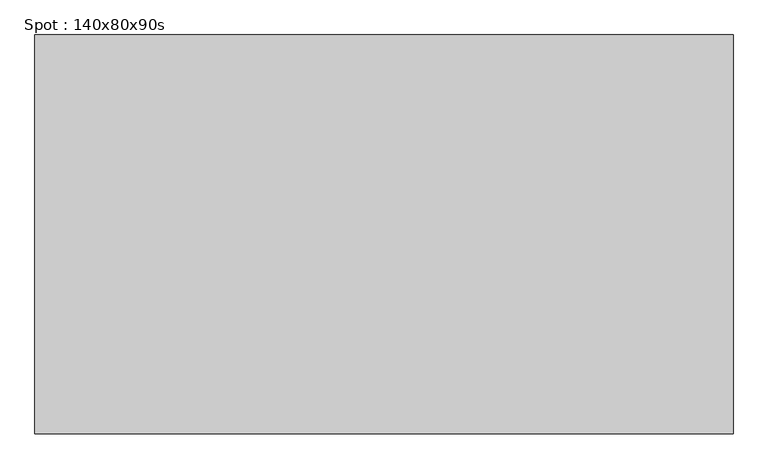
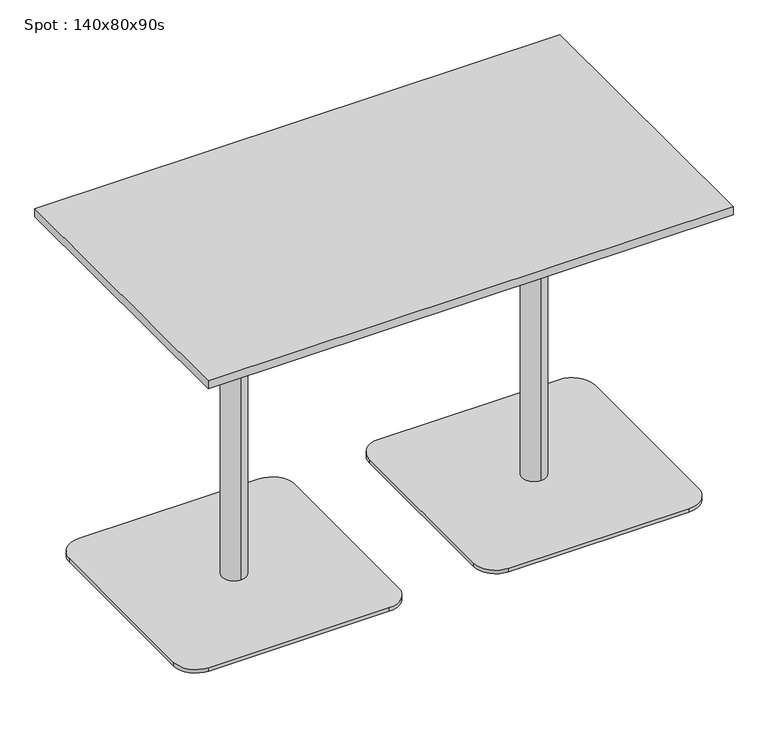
"""IFC4 building model written with IfcOpenShell, lengths in millimetres: furniture geometry, Spot : 140x80x90s."""

from ifc_helpers import new_model, si_unit, point, frame, frame_2d, origin, origin_with_axes, place, context, project, spatial, polyline, circle_curve, trimmed, segment, composite_curve, outline, extrude, source, transform, mapped, element, save
from ifc_brep_helpers import plane_surface, cylinder_surface, revolved_surface, advanced_brep


def spot_140x80x90s_9dd5afe5(model_context):
    return source(origin(), model_context, "Body", "SolidModel", [
        extrude(outline(polyline([(700.0, 400.0), (700.0, -400.0), (-700.0, -400.0), (-700.0, 400.0), (700.0, 400.0)])), frame((0.0, 0.0, 878.0), z_axis=(0.0, 0.0, 1.0), x_axis=(1.0, 0.0, 0.0)), (0.0, 0.0, 1.0), 22.0),
        extrude(outline(composite_curve([segment(trimmed(circle_curve(frame_2d((-160.0, 240.0)), 60.0), [point((-160.0, 300.0))], [point((-100.0, 240.0))], False, "CARTESIAN"), True, "CONTINUOUS"), segment(polyline([(-100.0, 240.0), (-100.0, -240.0)]), True, "CONTINUOUS"), segment(trimmed(circle_curve(frame_2d((-160.0, -240.0)), 60.0), [point((-100.0, -240.0))], [point((-160.0, -300.0))], False, "CARTESIAN"), True, "CONTINUOUS"), segment(polyline([(-160.0, -300.0), (-640.0, -300.0)]), True, "CONTINUOUS"), segment(trimmed(circle_curve(frame_2d((-640.0, -240.0)), 60.0), [point((-640.0, -300.0))], [point((-700.0, -240.0))], False, "CARTESIAN"), True, "CONTINUOUS"), segment(polyline([(-700.0, -240.0), (-700.0, 240.0)]), True, "CONTINUOUS"), segment(trimmed(circle_curve(frame_2d((-640.0, 240.0)), 60.0), [point((-700.0, 240.0))], [point((-640.0, 300.0))], False, "CARTESIAN"), True, "CONTINUOUS"), segment(polyline([(-640.0, 300.0), (-160.0, 300.0)]), True, "CONTINUOUS")], self_intersect=False)), origin_with_axes(), (0.0, 0.0, 1.0), 10.0),
        advanced_brep(
        [(-400.0, 32.0, 10.0), (-400.0, -32.0, 10.0), (-400.0, -32.0, 847.406916), (-400.0, 32.0, 847.406916), (-400.0, 0.0, 10.0), (-400.0, 150.0, 878.0), (-400.0, -150.0, 878.0), (-400.0, 0.0, 878.0), (-400.0, 150.0, 866.7213673), (-400.0, -150.0, 866.7213673)],
        [
            (0, 1, circle_curve(frame((-400.0, 0.0, 10.0), z_axis=(0.0, 0.0, 1.0), x_axis=(0.0, -1.0, 0.0)), 32.0)),
            (1, 2),
            (2, 3, circle_curve(frame((-400.0, 0.0, 847.406916), z_axis=(0.0, 0.0, -1.0), x_axis=(0.0, -1.0, 0.0)), 32.0)),
            (3, 0),
            (1, 0, circle_curve(frame((-400.0, 0.0, 10.0), z_axis=(0.0, 0.0, 1.0), x_axis=(0.0, -1.0, 0.0)), 32.0)),
            (3, 2, circle_curve(frame((-400.0, 0.0, 847.406916), z_axis=(0.0, 0.0, -1.0), x_axis=(0.0, -1.0, 0.0)), 32.0)),
            (4, 1),
            (0, 4),
            (5, 6, circle_curve(frame((-400.0, 0.0, 878.0), z_axis=(0.0, 0.0, 1.0), x_axis=(0.0, -1.0, 0.0)), 150.0)),
            (6, 7),
            (7, 5),
            (6, 5, circle_curve(frame((-400.0, 0.0, 878.0), z_axis=(0.0, 0.0, 1.0), x_axis=(0.0, -1.0, 0.0)), 150.0)),
            (8, 9, circle_curve(frame((-400.0, 0.0, 866.7213673), z_axis=(0.0, 0.0, 1.0), x_axis=(0.0, -1.0, 0.0)), 150.0)),
            (9, 6),
            (5, 8),
            (9, 8, circle_curve(frame((-400.0, 0.0, 866.7213673), z_axis=(0.0, 0.0, 1.0), x_axis=(0.0, -1.0, 0.0)), 150.0)),
            (2, 9),
            (8, 3),
        ],
        [
            cylinder_surface(frame((-400.0, 0.0, 1240.0), z_axis=(0.0, 0.0, -1.0), x_axis=(0.0, -1.0, 0.0)), 32.0),
            plane_surface(frame((-400.0, 0.0, 10.0), z_axis=(0.0, 0.0, -1.0), x_axis=(0.0, -1.0, 0.0))),
            plane_surface(frame((-400.0, 0.0, 878.0), z_axis=(0.0, 0.0, 1.0), x_axis=(0.0, -1.0, 0.0))),
            cylinder_surface(frame((-400.0, 0.0, 1240.0), z_axis=(0.0, 0.0, -1.0), x_axis=(0.0, -1.0, 0.0)), 150.0),
            revolved_surface(polyline([(-400.0, -150.0, 866.7213673), (-400.0, -32.0, 847.406916)]), (-400.0, 0.0, 1240.0), (0.0, 0.0, -1.0)),
        ],
        [
            (0, [[1, 2, 3, 4]]),
            (0, [[5, -4, 6, -2]]),
            (1, [[7, -1, 8]]),
            (1, [[-8, -5, -7]]),
            (2, [[9, 10, 11]]),
            (2, [[12, -11, -10]]),
            (3, [[13, 14, -9, 15]]),
            (3, [[16, -15, -12, -14]]),
            (4, [[-3, 17, -13, 18]]),
            (4, [[-6, -18, -16, -17]]),
        ],
    ),
        extrude(outline(polyline([(-400.0, 0.0), (-420.0, 0.0), (-420.0, 20.0), (-400.0, 20.0), (-400.0, 0.0)])), origin_with_axes(), (0.0, 0.0, 1.0), 10.0),
        extrude(outline(composite_curve([segment(trimmed(circle_curve(frame_2d((640.0, 240.0)), 60.0), [point((640.0, 300.0))], [point((700.0, 240.0))], False, "CARTESIAN"), True, "CONTINUOUS"), segment(polyline([(700.0, 240.0), (700.0, -240.0)]), True, "CONTINUOUS"), segment(trimmed(circle_curve(frame_2d((640.0, -240.0)), 60.0), [point((700.0, -240.0))], [point((640.0, -300.0))], False, "CARTESIAN"), True, "CONTINUOUS"), segment(polyline([(640.0, -300.0), (160.0, -300.0)]), True, "CONTINUOUS"), segment(trimmed(circle_curve(frame_2d((160.0, -240.0)), 60.0), [point((160.0, -300.0))], [point((100.0, -240.0))], False, "CARTESIAN"), True, "CONTINUOUS"), segment(polyline([(100.0, -240.0), (100.0, 240.0)]), True, "CONTINUOUS"), segment(trimmed(circle_curve(frame_2d((160.0, 240.0)), 60.0), [point((100.0, 240.0))], [point((160.0, 300.0))], False, "CARTESIAN"), True, "CONTINUOUS"), segment(polyline([(160.0, 300.0), (640.0, 300.0)]), True, "CONTINUOUS")], self_intersect=False)), origin_with_axes(), (0.0, 0.0, 1.0), 10.0),
        advanced_brep(
        [(400.0, 32.0, 10.0), (400.0, -32.0, 10.0), (400.0, -32.0, 847.406916), (400.0, 32.0, 847.406916), (400.0, 0.0, 10.0), (400.0, 150.0, 878.0), (400.0, -150.0, 878.0), (400.0, 0.0, 878.0), (400.0, 150.0, 866.7213673), (400.0, -150.0, 866.7213673)],
        [
            (0, 1, circle_curve(frame((400.0, 0.0, 10.0), z_axis=(0.0, 0.0, 1.0), x_axis=(0.0, -1.0, 0.0)), 32.0)),
            (1, 2),
            (2, 3, circle_curve(frame((400.0, 0.0, 847.406916), z_axis=(0.0, 0.0, -1.0), x_axis=(0.0, -1.0, 0.0)), 32.0)),
            (3, 0),
            (1, 0, circle_curve(frame((400.0, 0.0, 10.0), z_axis=(0.0, 0.0, 1.0), x_axis=(0.0, -1.0, 0.0)), 32.0)),
            (3, 2, circle_curve(frame((400.0, 0.0, 847.406916), z_axis=(0.0, 0.0, -1.0), x_axis=(0.0, -1.0, 0.0)), 32.0)),
            (4, 1),
            (0, 4),
            (5, 6, circle_curve(frame((400.0, 0.0, 878.0), z_axis=(0.0, 0.0, 1.0), x_axis=(0.0, -1.0, 0.0)), 150.0)),
            (6, 7),
            (7, 5),
            (6, 5, circle_curve(frame((400.0, 0.0, 878.0), z_axis=(0.0, 0.0, 1.0), x_axis=(0.0, -1.0, 0.0)), 150.0)),
            (8, 9, circle_curve(frame((400.0, 0.0, 866.7213673), z_axis=(0.0, 0.0, 1.0), x_axis=(0.0, -1.0, 0.0)), 150.0)),
            (9, 6),
            (5, 8),
            (9, 8, circle_curve(frame((400.0, 0.0, 866.7213673), z_axis=(0.0, 0.0, 1.0), x_axis=(0.0, -1.0, 0.0)), 150.0)),
            (2, 9),
            (8, 3),
        ],
        [
            cylinder_surface(frame((400.0, 0.0, 1240.0), z_axis=(0.0, 0.0, -1.0), x_axis=(0.0, -1.0, 0.0)), 32.0),
            plane_surface(frame((400.0, 0.0, 10.0), z_axis=(0.0, 0.0, -1.0), x_axis=(0.0, -1.0, 0.0))),
            plane_surface(frame((400.0, 0.0, 878.0), z_axis=(0.0, 0.0, 1.0), x_axis=(0.0, -1.0, 0.0))),
            cylinder_surface(frame((400.0, 0.0, 1240.0), z_axis=(0.0, 0.0, -1.0), x_axis=(0.0, -1.0, 0.0)), 150.0),
            revolved_surface(polyline([(400.0, -150.0, 866.7213673), (400.0, -32.0, 847.406916)]), (400.0, 0.0, 1240.0), (0.0, 0.0, -1.0)),
        ],
        [
            (0, [[1, 2, 3, 4]]),
            (0, [[5, -4, 6, -2]]),
            (1, [[7, -1, 8]]),
            (1, [[-8, -5, -7]]),
            (2, [[9, 10, 11]]),
            (2, [[12, -11, -10]]),
            (3, [[13, 14, -9, 15]]),
            (3, [[16, -15, -12, -14]]),
            (4, [[-3, 17, -13, 18]]),
            (4, [[-6, -18, -16, -17]]),
        ],
    ),
        extrude(outline(polyline([(400.0, 0.0), (380.0, 0.0), (380.0, 20.0), (400.0, 20.0), (400.0, 0.0)])), origin_with_axes(), (0.0, 0.0, 1.0), 10.0),
    ])


if __name__ == "__main__":
    model = new_model("IFC4")
    model_context = context("Model", 3, world=origin())
    ifc_project = project(units=[si_unit("LENGTHUNIT", "METRE", prefix="MILLI")], contexts=[model_context])
    site = spatial("IfcSite", under=ifc_project)
    building = spatial("IfcBuilding", under=site)
    placement = place(None, origin())
    spot_140x80x90s_shape = spot_140x80x90s_9dd5afe5(model_context)
    element("IfcFurniture", 1, ObjectType="Spot : 140x80x90s", at=placement, inside=building, context=model_context, shape_type="MappedRepresentation", body=[
        mapped(spot_140x80x90s_shape, transform((0.0, 0.0, 0.0), x_axis=(1.0, 0.0, 0.0), y_axis=(0.0, 1.0, 0.0), z_axis=(0.0, 0.0, 1.0))),
    ])
    save(model, "model.ifc")
